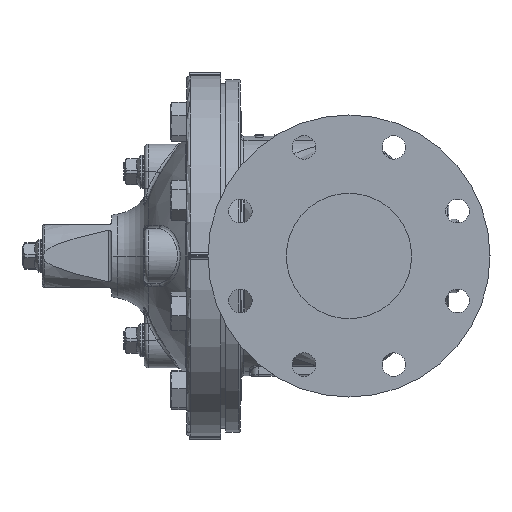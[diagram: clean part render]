
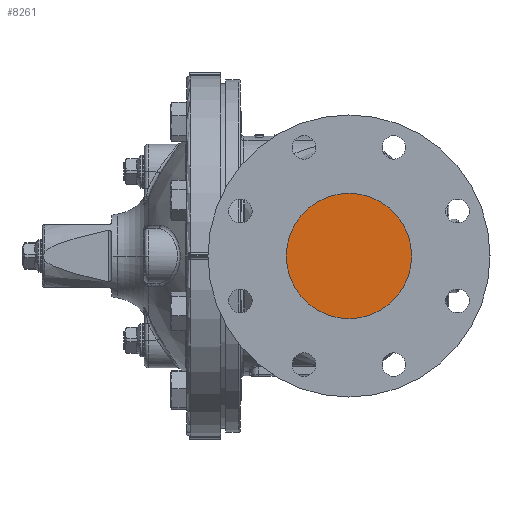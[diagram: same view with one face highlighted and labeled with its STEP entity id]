
A CAD part, left-side view. The second image highlights one B-rep face of the part: STEP entity #8261.
In plain terms, the highlighted planar face has unit normal (-1, 0, 0) as drawn and (1, 0, 0) by its records, which use the part's own axes.
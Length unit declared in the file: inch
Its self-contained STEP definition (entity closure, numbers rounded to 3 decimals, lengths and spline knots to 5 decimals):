
#322 = ORIENTED_EDGE ( 'NONE', *, *, #14335, .F. ) ;
#3541 = AXIS2_PLACEMENT_3D ( 'NONE', #43075, #14148, #14434 ) ;
#4835 = AXIS2_PLACEMENT_3D ( 'NONE', #33853, #16575, #4970 ) ;
#4970 = DIRECTION ( 'NONE',  ( 0., 0., 1. ) ) ;
#8261 = ADVANCED_FACE ( 'NONE', ( #30362 ), #34684, .F. ) ;
#11084 = CIRCLE ( 'NONE', #12829, 2. ) ;
#12829 = AXIS2_PLACEMENT_3D ( 'NONE', #49272, #49542, #24195 ) ;
#14148 = DIRECTION ( 'NONE',  ( -1., 0., 0. ) ) ;
#14335 = EDGE_CURVE ( 'NONE', #16692, #51732, #11084, .T. ) ;
#14434 = DIRECTION ( 'NONE',  ( 0., 0., 1. ) ) ;
#16575 = DIRECTION ( 'NONE',  ( -1., 0., 0. ) ) ;
#16692 = VERTEX_POINT ( 'NONE', #43136 ) ;
#17805 = ORIENTED_EDGE ( 'NONE', *, *, #34978, .F. ) ;
#19300 = CARTESIAN_POINT ( 'NONE',  ( 6.5, 0., 2. ) ) ;
#19826 = EDGE_LOOP ( 'NONE', ( #17805, #322 ) ) ;
#24195 = DIRECTION ( 'NONE',  ( 0., 0., 1. ) ) ;
#28106 = CIRCLE ( 'NONE', #4835, 2. ) ;
#30362 = FACE_OUTER_BOUND ( 'NONE', #19826, .T. ) ;
#33853 = CARTESIAN_POINT ( 'NONE',  ( 6.5, 0., 0. ) ) ;
#34684 = PLANE ( 'NONE',  #3541 ) ;
#34978 = EDGE_CURVE ( 'NONE', #51732, #16692, #28106, .T. ) ;
#43075 = CARTESIAN_POINT ( 'NONE',  ( 6.5, 0., -2.44 ) ) ;
#43136 = CARTESIAN_POINT ( 'NONE',  ( 6.5, 0., -2. ) ) ;
#49272 = CARTESIAN_POINT ( 'NONE',  ( 6.5, 0., 0. ) ) ;
#49542 = DIRECTION ( 'NONE',  ( -1., 0., 0. ) ) ;
#51732 = VERTEX_POINT ( 'NONE', #19300 ) ;
